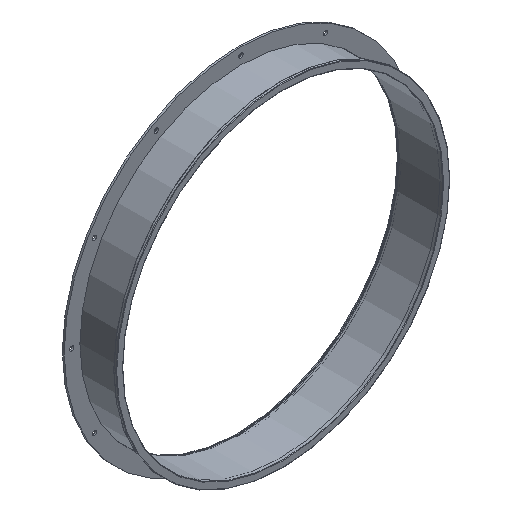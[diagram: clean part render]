
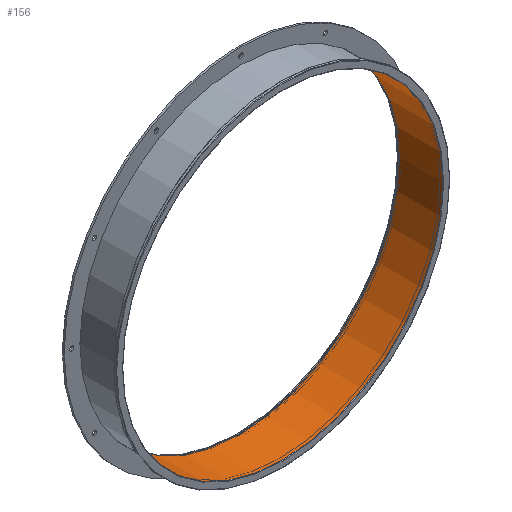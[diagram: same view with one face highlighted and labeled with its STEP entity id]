
A CAD part, isometric view. The second image highlights one B-rep face of the part: STEP entity #156.
In plain terms, the highlighted cylindrical face has radius 355 mm (diameter 710 mm), a full revolution.
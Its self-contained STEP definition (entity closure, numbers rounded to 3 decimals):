
#125=CYLINDRICAL_SURFACE('',#679,355.);
#156=ADVANCED_FACE('',(#253,#254),#125,.F.);
#253=FACE_BOUND('',#349,.T.);
#254=FACE_BOUND('',#350,.T.);
#349=EDGE_LOOP('',(#445));
#350=EDGE_LOOP('',(#446));
#445=ORIENTED_EDGE('',*,*,#552,.T.);
#446=ORIENTED_EDGE('',*,*,#553,.T.);
#504=VERTEX_POINT('',#976);
#505=VERTEX_POINT('',#978);
#552=EDGE_CURVE('',#504,#504,#600,.T.);
#553=EDGE_CURVE('',#505,#505,#601,.T.);
#600=CIRCLE('',#677,355.);
#601=CIRCLE('',#678,355.);
#677=AXIS2_PLACEMENT_3D('',#975,#834,#835);
#678=AXIS2_PLACEMENT_3D('',#977,#836,#837);
#679=AXIS2_PLACEMENT_3D('',#979,#838,#839);
#834=DIRECTION('',(0.,-1.,0.));
#835=DIRECTION('',(-1.,0.,0.));
#836=DIRECTION('',(0.,1.,0.));
#837=DIRECTION('',(1.,0.,0.));
#838=DIRECTION('',(0.,1.,0.));
#839=DIRECTION('',(1.,0.,0.));
#975=CARTESIAN_POINT('',(0.,1.,0.));
#976=CARTESIAN_POINT('',(-355.,1.,0.));
#977=CARTESIAN_POINT('',(0.,99.,0.));
#978=CARTESIAN_POINT('',(355.,99.,0.));
#979=CARTESIAN_POINT('',(0.,-192.076,0.));
